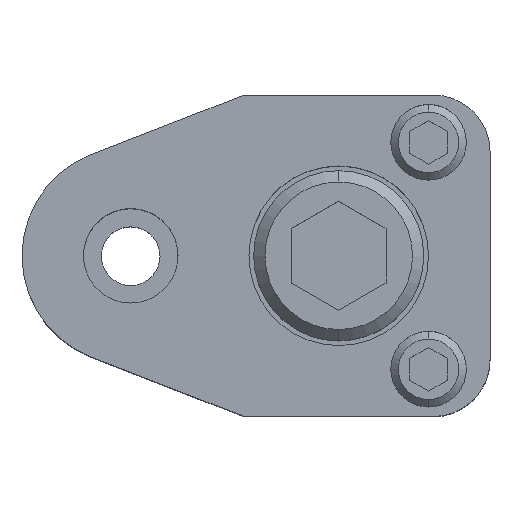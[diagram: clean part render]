
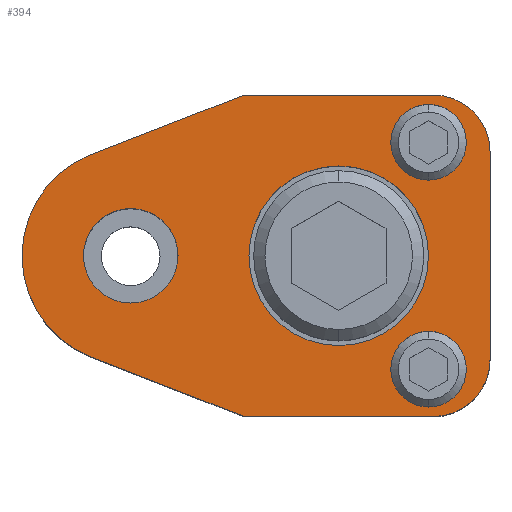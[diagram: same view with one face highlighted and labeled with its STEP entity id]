
A CAD part, top view. The second image highlights one B-rep face of the part: STEP entity #394.
In plain terms, the highlighted planar face has unit normal (0, 0, 1).
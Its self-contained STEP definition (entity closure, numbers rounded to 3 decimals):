
#196=FACE_BOUND('',#703,.T.);
#197=FACE_BOUND('',#704,.T.);
#198=FACE_BOUND('',#705,.T.);
#199=FACE_BOUND('',#706,.T.);
#200=FACE_BOUND('',#707,.T.);
#247=CIRCLE('',#2294,6.);
#250=CIRCLE('',#2300,6.);
#255=CIRCLE('',#2308,9.5);
#257=CIRCLE('',#2311,9.5);
#259=CIRCLE('',#2315,11.5);
#260=CIRCLE('',#2316,4.);
#261=CIRCLE('',#2317,4.);
#262=CIRCLE('',#2318,4.);
#263=CIRCLE('',#2319,4.);
#264=CIRCLE('',#2320,5.);
#265=CIRCLE('',#2321,5.);
#394=ADVANCED_FACE('',(#196,#197,#198,#199,#200),#507,.T.);
#507=PLANE('',#2322);
#703=EDGE_LOOP('',(#985,#986,#987,#988,#989,#990,#991,#992));
#704=EDGE_LOOP('',(#993,#994));
#705=EDGE_LOOP('',(#995,#996));
#706=EDGE_LOOP('',(#997,#998));
#707=EDGE_LOOP('',(#999,#1000));
#985=ORIENTED_EDGE('',*,*,#1675,.T.);
#986=ORIENTED_EDGE('',*,*,#1679,.T.);
#987=ORIENTED_EDGE('',*,*,#1682,.T.);
#988=ORIENTED_EDGE('',*,*,#1702,.T.);
#989=ORIENTED_EDGE('',*,*,#1703,.T.);
#990=ORIENTED_EDGE('',*,*,#1704,.T.);
#991=ORIENTED_EDGE('',*,*,#1685,.T.);
#992=ORIENTED_EDGE('',*,*,#1689,.T.);
#993=ORIENTED_EDGE('',*,*,#1705,.F.);
#994=ORIENTED_EDGE('',*,*,#1706,.F.);
#995=ORIENTED_EDGE('',*,*,#1707,.F.);
#996=ORIENTED_EDGE('',*,*,#1708,.F.);
#997=ORIENTED_EDGE('',*,*,#1700,.F.);
#998=ORIENTED_EDGE('',*,*,#1696,.F.);
#999=ORIENTED_EDGE('',*,*,#1709,.T.);
#1000=ORIENTED_EDGE('',*,*,#1710,.T.);
#1458=VERTEX_POINT('',#3316);
#1459=VERTEX_POINT('',#3318);
#1462=VERTEX_POINT('',#3325);
#1464=VERTEX_POINT('',#3331);
#1466=VERTEX_POINT('',#3337);
#1467=VERTEX_POINT('',#3339);
#1473=VERTEX_POINT('',#3360);
#1474=VERTEX_POINT('',#3361);
#1477=VERTEX_POINT('',#3373);
#1478=VERTEX_POINT('',#3375);
#1479=VERTEX_POINT('',#3378);
#1480=VERTEX_POINT('',#3379);
#1481=VERTEX_POINT('',#3382);
#1482=VERTEX_POINT('',#3383);
#1483=VERTEX_POINT('',#3386);
#1484=VERTEX_POINT('',#3387);
#1675=EDGE_CURVE('',#1459,#1458,#1959,.T.);
#1679=EDGE_CURVE('',#1458,#1462,#247,.T.);
#1682=EDGE_CURVE('',#1462,#1464,#1964,.T.);
#1685=EDGE_CURVE('',#1467,#1466,#1967,.T.);
#1689=EDGE_CURVE('',#1466,#1459,#250,.T.);
#1696=EDGE_CURVE('',#1473,#1474,#255,.T.);
#1700=EDGE_CURVE('',#1474,#1473,#257,.T.);
#1702=EDGE_CURVE('',#1464,#1477,#1974,.T.);
#1703=EDGE_CURVE('',#1477,#1478,#259,.T.);
#1704=EDGE_CURVE('',#1478,#1467,#1975,.T.);
#1705=EDGE_CURVE('',#1479,#1480,#260,.T.);
#1706=EDGE_CURVE('',#1480,#1479,#261,.T.);
#1707=EDGE_CURVE('',#1481,#1482,#262,.T.);
#1708=EDGE_CURVE('',#1482,#1481,#263,.T.);
#1709=EDGE_CURVE('',#1483,#1484,#264,.T.);
#1710=EDGE_CURVE('',#1484,#1483,#265,.T.);
#1959=LINE('',#3317,#2127);
#1964=LINE('',#3332,#2132);
#1967=LINE('',#3338,#2135);
#1974=LINE('',#3372,#2142);
#1975=LINE('',#3376,#2143);
#2127=VECTOR('',#2644,1.);
#2132=VECTOR('',#2657,1.);
#2135=VECTOR('',#2662,1.);
#2142=VECTOR('',#2703,1.);
#2143=VECTOR('',#2706,1.);
#2294=AXIS2_PLACEMENT_3D('',#3326,#2650,#2651);
#2300=AXIS2_PLACEMENT_3D('',#3345,#2669,#2670);
#2308=AXIS2_PLACEMENT_3D('',#3359,#2687,#2688);
#2311=AXIS2_PLACEMENT_3D('',#3368,#2695,#2696);
#2315=AXIS2_PLACEMENT_3D('',#3374,#2704,#2705);
#2316=AXIS2_PLACEMENT_3D('',#3377,#2707,#2708);
#2317=AXIS2_PLACEMENT_3D('',#3380,#2709,#2710);
#2318=AXIS2_PLACEMENT_3D('',#3381,#2711,#2712);
#2319=AXIS2_PLACEMENT_3D('',#3384,#2713,#2714);
#2320=AXIS2_PLACEMENT_3D('',#3385,#2715,#2716);
#2321=AXIS2_PLACEMENT_3D('',#3388,#2717,#2718);
#2322=AXIS2_PLACEMENT_3D('',#3389,#2719,#2720);
#2644=DIRECTION('',(0.,1.,0.));
#2650=DIRECTION('',(0.,0.,1.));
#2651=DIRECTION('',(-0.707,-0.707,0.));
#2657=DIRECTION('',(-1.,0.,0.));
#2662=DIRECTION('',(1.,0.,0.));
#2669=DIRECTION('',(0.,0.,1.));
#2670=DIRECTION('',(-0.707,0.707,0.));
#2687=DIRECTION('',(0.,0.,1.));
#2688=DIRECTION('',(-1.,0.,0.));
#2695=DIRECTION('',(0.,0.,1.));
#2696=DIRECTION('',(1.,0.,0.));
#2703=DIRECTION('',(-0.932,-0.362,0.));
#2704=DIRECTION('',(0.,0.,1.));
#2705=DIRECTION('',(0.,1.,0.));
#2706=DIRECTION('',(0.932,-0.362,0.));
#2707=DIRECTION('',(0.,0.,1.));
#2708=DIRECTION('',(-1.,0.,0.));
#2709=DIRECTION('',(0.,0.,1.));
#2710=DIRECTION('',(1.,0.,0.));
#2711=DIRECTION('',(0.,0.,1.));
#2712=DIRECTION('',(-1.,0.,0.));
#2713=DIRECTION('',(0.,0.,1.));
#2714=DIRECTION('',(1.,0.,0.));
#2715=DIRECTION('',(0.,0.,-1.));
#2716=DIRECTION('',(-1.,0.,0.));
#2717=DIRECTION('',(0.,0.,-1.));
#2718=DIRECTION('',(1.,0.,0.));
#2719=DIRECTION('',(0.,0.,1.));
#2720=DIRECTION('',(0.,-1.,0.));
#3316=CARTESIAN_POINT('',(38.,11.,30.));
#3317=CARTESIAN_POINT('',(38.,-11.,30.));
#3318=CARTESIAN_POINT('',(38.,-11.,30.));
#3325=CARTESIAN_POINT('',(32.,17.,30.));
#3326=CARTESIAN_POINT('',(32.,11.,30.));
#3331=CARTESIAN_POINT('',(12.,17.,30.));
#3332=CARTESIAN_POINT('',(12.,17.,30.));
#3337=CARTESIAN_POINT('',(32.,-17.,30.));
#3338=CARTESIAN_POINT('',(12.,-17.,30.));
#3339=CARTESIAN_POINT('',(12.,-17.,30.));
#3345=CARTESIAN_POINT('',(32.,-11.,30.));
#3359=CARTESIAN_POINT('',(22.,0.,30.));
#3360=CARTESIAN_POINT('',(22.,-9.5,30.));
#3361=CARTESIAN_POINT('',(22.,9.5,30.));
#3368=CARTESIAN_POINT('',(22.,0.,30.));
#3372=CARTESIAN_POINT('',(12.,17.,30.));
#3373=CARTESIAN_POINT('',(-4.165,10.719,30.));
#3374=CARTESIAN_POINT('',(0.,0.,30.));
#3375=CARTESIAN_POINT('',(-4.165,-10.719,30.));
#3376=CARTESIAN_POINT('',(12.,-17.,30.));
#3377=CARTESIAN_POINT('',(31.5,-12.,30.));
#3378=CARTESIAN_POINT('',(31.5,-16.,30.));
#3379=CARTESIAN_POINT('',(31.5,-8.,30.));
#3380=CARTESIAN_POINT('',(31.5,-12.,30.));
#3381=CARTESIAN_POINT('',(31.5,12.,30.));
#3382=CARTESIAN_POINT('',(31.5,8.,30.));
#3383=CARTESIAN_POINT('',(31.5,16.,30.));
#3384=CARTESIAN_POINT('',(31.5,12.,30.));
#3385=CARTESIAN_POINT('',(0.,0.,30.));
#3386=CARTESIAN_POINT('',(0.,5.,30.));
#3387=CARTESIAN_POINT('',(0.,-5.,30.));
#3388=CARTESIAN_POINT('',(0.,0.,30.));
#3389=CARTESIAN_POINT('',(38.,-11.,30.));
